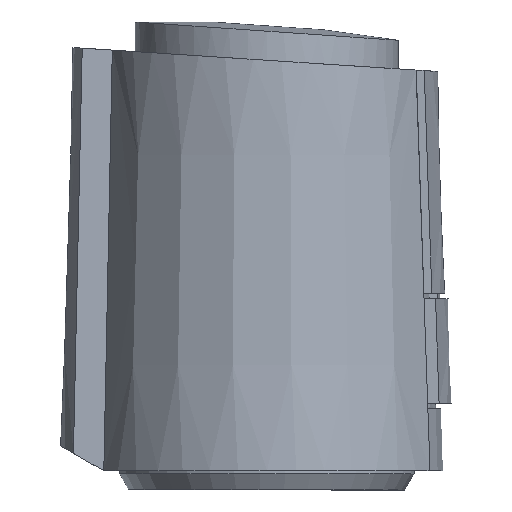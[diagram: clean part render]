
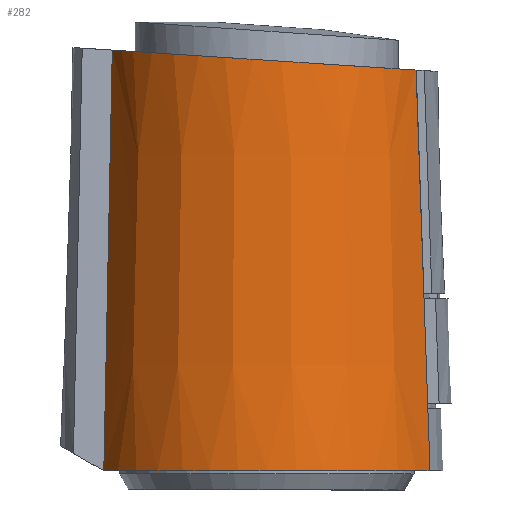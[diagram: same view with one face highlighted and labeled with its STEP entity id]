
A CAD part, left-side view. The second image highlights one B-rep face of the part: STEP entity #282.
In plain terms, the highlighted conical face has half-angle 1.81 degrees and reference radius 21.28 mm.
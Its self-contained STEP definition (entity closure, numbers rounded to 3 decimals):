
#282=ADVANCED_FACE('',(#2206),#2208,.T.);
#2206=FACE_BOUND('',#2207,.T.);
#2207=EDGE_LOOP('',(#6499,#6500,#6501,#6502));
#2208=CONICAL_SURFACE('',#2209,21.28,0.032);
#2209=AXIS2_PLACEMENT_3D('',#2210,#2211,#2212);
#2210=CARTESIAN_POINT('',(0.,0.,25.94));
#2211=DIRECTION('',(0.,0.,-1.));
#2212=DIRECTION('',(0.,1.,0.));
#6499=ORIENTED_EDGE('',*,*,#9326,.T.);
#6500=ORIENTED_EDGE('',*,*,#9328,.T.);
#6501=ORIENTED_EDGE('',*,*,#9305,.F.);
#6502=ORIENTED_EDGE('',*,*,#8333,.F.);
#8333=EDGE_CURVE('',#10386,#10388,#10389,.T.);
#9305=EDGE_CURVE('',#10388,#12082,#12083,.F.);
#9326=EDGE_CURVE('',#10386,#12117,#12119,.F.);
#9328=EDGE_CURVE('',#12117,#12082,#12121,.T.);
#10386=VERTEX_POINT('',#14491);
#10388=VERTEX_POINT('',#14495);
#10389=CIRCLE('',#14496,22.1);
#12082=VERTEX_POINT('',#18753);
#12083=B_SPLINE_CURVE_WITH_KNOTS('',3,
(#18754,#18755,#18756,#18757,#18758,#18759,#18760),
.UNSPECIFIED.,.F.,.F.,
(4,1,1,1,4),
(0.,0.21,0.454,0.717,1.),
.UNSPECIFIED.);
#12117=VERTEX_POINT('',#19011);
#12119=B_SPLINE_CURVE_WITH_KNOTS('',3,
(#19015,#19016,#19017,#19018,#19019,#19020,#19021,#19022,#19023,#19024,#19025,#19026),
.UNSPECIFIED.,.F.,.F.,
(4,1,1,1,1,1,1,1,1,4),
(0.,0.148,0.286,0.429,0.564,0.694,
0.799,0.906,0.994,1.),
.UNSPECIFIED.);
#12121=B_SPLINE_CURVE_WITH_KNOTS('',3,
(#19030,#19031,#19032,#19033,#19034,#19035,#19036,#19037,#19038,#19039,#19040,#19041,
#19042,#19043,#19044,#19045,#19046,#19047,#19048,#19049,#19050,#19051,#19052,#19053,
#19054,#19055,#19056,#19057,#19058,#19059,#19060,#19061,#19062,#19063,#19064,#19065,
#19066,#19067,#19068,#19069,#19070,#19071,#19072,#19073,#19074,#19075,#19076,#19077,
#19078,#19079,#19080,#19081,#19082,#19083,#19084,#19085,#19086,#19087),
.UNSPECIFIED.,.F.,.F.,
(4,1,1,1,1,1,1,1,1,1,1,1,1,1,1,1,1,1,1,1,1,1,1,1,1,1,1,1,1,1,1,1,1,1,1,1,1,1,1,1,
1,1,1,1,1,1,1,1,1,1,1,1,1,1,1,4),
(0.,0.023,0.043,0.058,0.069,
0.078,0.088,0.107,0.134,0.163,
0.187,0.208,0.231,0.251,0.266,
0.277,0.288,0.3,0.311,0.324,
0.339,0.36,0.381,0.403,0.418,
0.431,0.443,0.455,0.471,0.481,
0.486,0.501,0.512,0.523,0.537,
0.552,0.568,0.582,0.597,0.618,
0.637,0.655,0.666,0.678,0.695,
0.721,0.758,0.803,0.849,0.894,
0.932,0.957,0.974,0.984,0.992,
1.),
.UNSPECIFIED.);
#14491=CARTESIAN_POINT('',(-9.1,-20.14,0.));
#14495=CARTESIAN_POINT('',(-9.15,20.117,0.));
#14496=AXIS2_PLACEMENT_3D('',#14497,#14498,#14499);
#14497=CARTESIAN_POINT('',(0.,0.,0.));
#14498=DIRECTION('',(0.,0.,-1.));
#14499=DIRECTION('',(-0.412,-0.911,0.));
#18753=CARTESIAN_POINT('',(-7.411,19.071,51.88));
#18754=CARTESIAN_POINT('',(-7.411,19.071,51.88));
#18755=CARTESIAN_POINT('',(-7.533,19.147,48.246));
#18756=CARTESIAN_POINT('',(-7.796,19.309,40.395));
#18757=CARTESIAN_POINT('',(-8.212,19.562,27.99));
#18758=CARTESIAN_POINT('',(-8.67,19.836,14.331));
#18759=CARTESIAN_POINT('',(-8.986,20.022,4.889));
#18760=CARTESIAN_POINT('',(-9.15,20.117,0.));
#19011=CARTESIAN_POINT('',(-9.1,-18.412,49.42));
#19015=CARTESIAN_POINT('',(-9.1,-18.412,49.42));
#19016=CARTESIAN_POINT('',(-9.1,-18.498,46.988));
#19017=CARTESIAN_POINT('',(-9.1,-18.664,42.271));
#19018=CARTESIAN_POINT('',(-9.1,-18.912,35.197));
#19019=CARTESIAN_POINT('',(-9.1,-19.152,28.336));
#19020=CARTESIAN_POINT('',(-9.1,-19.387,21.616));
#19021=CARTESIAN_POINT('',(-9.1,-19.6,15.527));
#19022=CARTESIAN_POINT('',(-9.1,-19.796,9.89));
#19023=CARTESIAN_POINT('',(-9.1,-19.968,4.953));
#19024=CARTESIAN_POINT('',(-9.1,-20.083,1.642));
#19025=CARTESIAN_POINT('',(-9.1,-20.136,0.1));
#19026=CARTESIAN_POINT('',(-9.1,-20.14,0.));
#19030=CARTESIAN_POINT('',(-9.1,-18.412,49.42));
#19031=CARTESIAN_POINT('',(-9.426,-18.25,49.431));
#19032=CARTESIAN_POINT('',(-10.03,-17.931,49.452));
#19033=CARTESIAN_POINT('',(-10.817,-17.463,49.482));
#19034=CARTESIAN_POINT('',(-11.421,-17.07,49.508));
#19035=CARTESIAN_POINT('',(-11.873,-16.756,49.529));
#19036=CARTESIAN_POINT('',(-12.264,-16.471,49.547));
#19037=CARTESIAN_POINT('',(-12.741,-16.107,49.571));
#19038=CARTESIAN_POINT('',(-13.426,-15.546,49.608));
#19039=CARTESIAN_POINT('',(-14.297,-14.754,49.66));
#19040=CARTESIAN_POINT('',(-15.184,-13.835,49.72));
#19041=CARTESIAN_POINT('',(-15.945,-12.941,49.779));
#19042=CARTESIAN_POINT('',(-16.594,-12.093,49.835));
#19043=CARTESIAN_POINT('',(-17.165,-11.265,49.889));
#19044=CARTESIAN_POINT('',(-17.644,-10.491,49.94));
#19045=CARTESIAN_POINT('',(-18.004,-9.852,49.982));
#19046=CARTESIAN_POINT('',(-18.278,-9.33,50.016));
#19047=CARTESIAN_POINT('',(-18.516,-8.846,50.048));
#19048=CARTESIAN_POINT('',(-18.742,-8.353,50.08));
#19049=CARTESIAN_POINT('',(-18.966,-7.83,50.115));
#19050=CARTESIAN_POINT('',(-19.191,-7.258,50.152));
#19051=CARTESIAN_POINT('',(-19.45,-6.536,50.199));
#19052=CARTESIAN_POINT('',(-19.719,-5.677,50.256));
#19053=CARTESIAN_POINT('',(-19.973,-4.698,50.32));
#19054=CARTESIAN_POINT('',(-20.157,-3.806,50.379));
#19055=CARTESIAN_POINT('',(-20.284,-3.031,50.429));
#19056=CARTESIAN_POINT('',(-20.367,-2.401,50.471));
#19057=CARTESIAN_POINT('',(-20.426,-1.815,50.509));
#19058=CARTESIAN_POINT('',(-20.471,-1.193,50.55));
#19059=CARTESIAN_POINT('',(-20.495,-0.603,50.589));
#19060=CARTESIAN_POINT('',(-20.501,-0.114,50.621));
#19061=CARTESIAN_POINT('',(-20.498,0.367,50.652));
#19062=CARTESIAN_POINT('',(-20.483,0.866,50.685));
#19063=CARTESIAN_POINT('',(-20.447,1.451,50.723));
#19064=CARTESIAN_POINT('',(-20.399,2.018,50.761));
#19065=CARTESIAN_POINT('',(-20.327,2.643,50.802));
#19066=CARTESIAN_POINT('',(-20.223,3.342,50.848));
#19067=CARTESIAN_POINT('',(-20.094,4.036,50.893));
#19068=CARTESIAN_POINT('',(-19.941,4.727,50.938));
#19069=CARTESIAN_POINT('',(-19.745,5.489,50.988));
#19070=CARTESIAN_POINT('',(-19.494,6.323,51.043));
#19071=CARTESIAN_POINT('',(-19.189,7.188,51.1));
#19072=CARTESIAN_POINT('',(-18.902,7.903,51.147));
#19073=CARTESIAN_POINT('',(-18.641,8.492,51.186));
#19074=CARTESIAN_POINT('',(-18.373,9.058,51.223));
#19075=CARTESIAN_POINT('',(-17.981,9.82,51.273));
#19076=CARTESIAN_POINT('',(-17.346,10.917,51.345));
#19077=CARTESIAN_POINT('',(-16.385,12.328,51.437));
#19078=CARTESIAN_POINT('',(-15.086,13.893,51.54));
#19079=CARTESIAN_POINT('',(-13.543,15.397,51.639));
#19080=CARTESIAN_POINT('',(-11.939,16.66,51.721));
#19081=CARTESIAN_POINT('',(-10.499,17.586,51.782));
#19082=CARTESIAN_POINT('',(-9.391,18.189,51.822));
#19083=CARTESIAN_POINT('',(-8.651,18.546,51.845));
#19084=CARTESIAN_POINT('',(-8.148,18.77,51.86));
#19085=CARTESIAN_POINT('',(-7.767,18.93,51.87));
#19086=CARTESIAN_POINT('',(-7.525,19.027,51.877));
#19087=CARTESIAN_POINT('',(-7.411,19.071,51.88));
